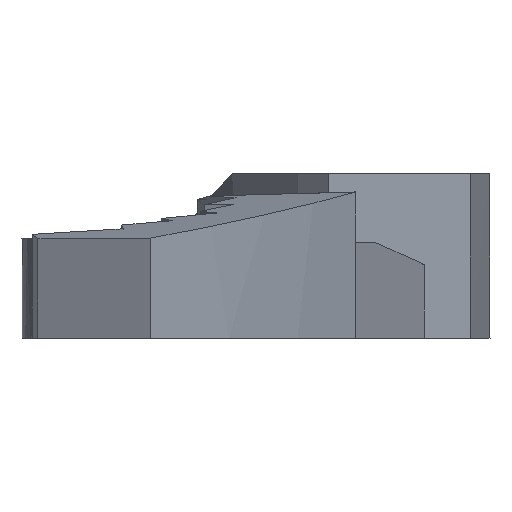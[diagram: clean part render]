
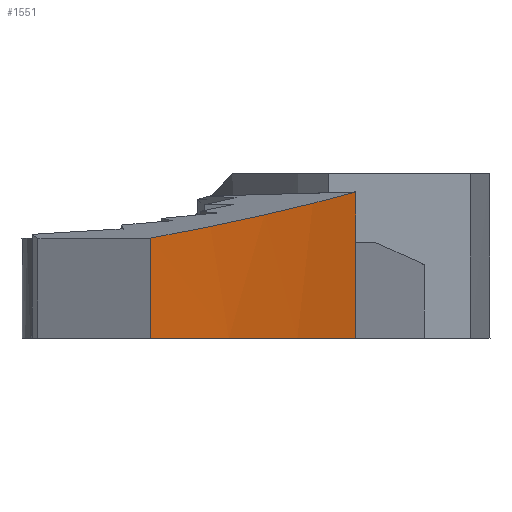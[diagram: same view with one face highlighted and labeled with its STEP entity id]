
A CAD part, left-side view. The second image highlights one B-rep face of the part: STEP entity #1551.
In plain terms, the highlighted cylindrical face has radius 231.774 mm (diameter 463.548 mm), a partial arc.
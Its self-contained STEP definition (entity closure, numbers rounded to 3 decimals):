
#68=ELLIPSE('',#209,232.996,231.774);
#126=CIRCLE('',#173,231.774);
#173=AXIS2_PLACEMENT_3D('',#1807,#557,#558);
#208=AXIS2_PLACEMENT_3D('',#1955,#672,#673);
#209=AXIS2_PLACEMENT_3D('',#1957,#675,#676);
#245=CYLINDRICAL_SURFACE('',#208,231.774);
#334=VECTOR('',#670,1.);
#336=VECTOR('',#674,1.);
#450=LINE('',#1952,#334);
#452=LINE('',#1956,#336);
#557=DIRECTION('',(0.,0.,1.));
#558=DIRECTION('',(-206.738,104.779,0.));
#670=DIRECTION('',(0.,0.,1.));
#672=DIRECTION('',(0.,0.,1.));
#673=DIRECTION('',(-206.738,104.779,0.));
#674=DIRECTION('',(0.,0.,1.));
#675=DIRECTION('',(-0.084,0.058,0.995));
#676=DIRECTION('',(-190.321,132.276,-23.834));
#757=VERTEX_POINT('',#1680);
#788=VERTEX_POINT('',#1806);
#789=VERTEX_POINT('',#1808);
#839=VERTEX_POINT('',#1953);
#917=EDGE_CURVE('',#789,#788,#126,.T.);
#992=EDGE_CURVE('',#789,#839,#450,.T.);
#994=EDGE_CURVE('',#788,#757,#452,.T.);
#995=EDGE_CURVE('',#839,#757,#68,.T.);
#1236=ORIENTED_EDGE('',*,*,#917,.T.);
#1237=ORIENTED_EDGE('',*,*,#994,.T.);
#1238=ORIENTED_EDGE('',*,*,#995,.F.);
#1239=ORIENTED_EDGE('',*,*,#992,.F.);
#1413=EDGE_LOOP('',(#1236,#1237,#1238,#1239));
#1485=FACE_BOUND('',#1413,.T.);
#1551=ADVANCED_FACE('',(#1485),#245,.T.);
#1680=CARTESIAN_POINT('',(-81.737,-216.884,-41.156));
#1806=CARTESIAN_POINT('',(-81.737,-216.884,-57.389));
#1807=CARTESIAN_POINT('',(0.,-0.001,-57.389));
#1808=CARTESIAN_POINT('',(-126.585,-194.154,-57.389));
#1952=CARTESIAN_POINT('',(-126.585,-194.154,-68.502));
#1953=CARTESIAN_POINT('',(-126.585,-194.154,-46.277));
#1955=CARTESIAN_POINT('',(0.,-0.001,-67.189));
#1956=CARTESIAN_POINT('',(-81.737,-216.884,-73.623));
#1957=CARTESIAN_POINT('',(0.,-0.001,-46.982));
